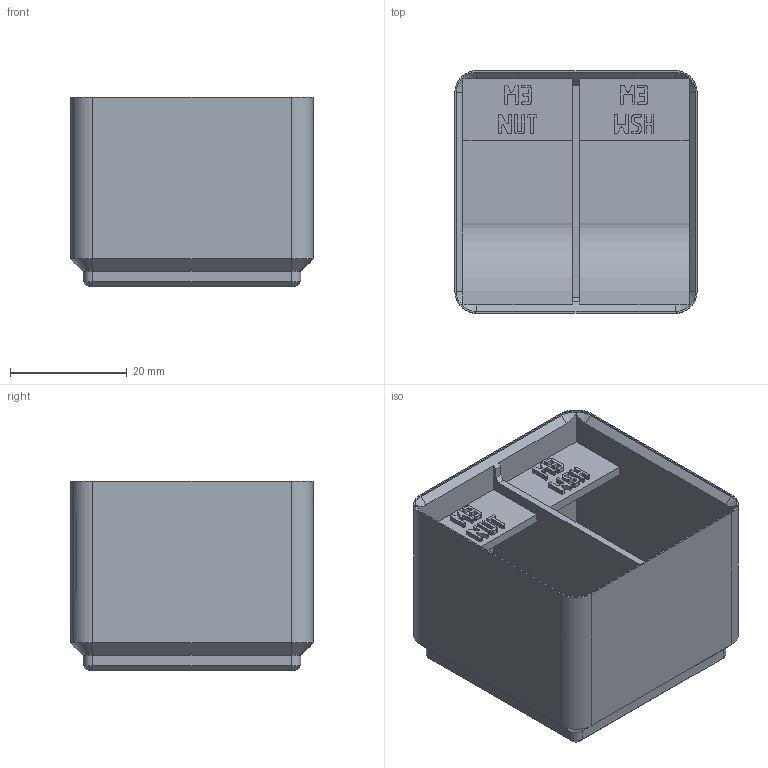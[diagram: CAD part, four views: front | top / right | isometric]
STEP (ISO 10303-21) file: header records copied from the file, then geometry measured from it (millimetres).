
FILE_DESCRIPTION(('Open CASCADE Model'),'2;1');
FILE_NAME('Open CASCADE Shape Model','2026-11-16T13:39:54',('Author'),( 'Open CASCADE'),'Open CASCADE STEP processor 8.0','build123d', 'Unknown');
FILE_SCHEMA(('AUTOMOTIVE_DESIGN { 1 0 10303 214 1 1 1 1 }'));
Products named in the file (1): SOLID
Bounding box: 41.5 x 41.5 x 32.4 mm (x, y, z)
Volume: 23918.2 mm3; surface area: 13473.1 mm2
Topology: 1 solids, 1 shells, 1132 faces, 3319 edges, 2202 vertices
Faces by surface type: plane 1106, cylinder 14, cone 12
Entity records: 77716 total; most frequent: CARTESIAN_POINT 15724, DIRECTION 9953, LINE 7587, VECTOR 7587, ORIENTED_EDGE 6638, PCURVE 6638, DEFINITIONAL_REPRESENTATION 6638, EDGE_CURVE 3319
